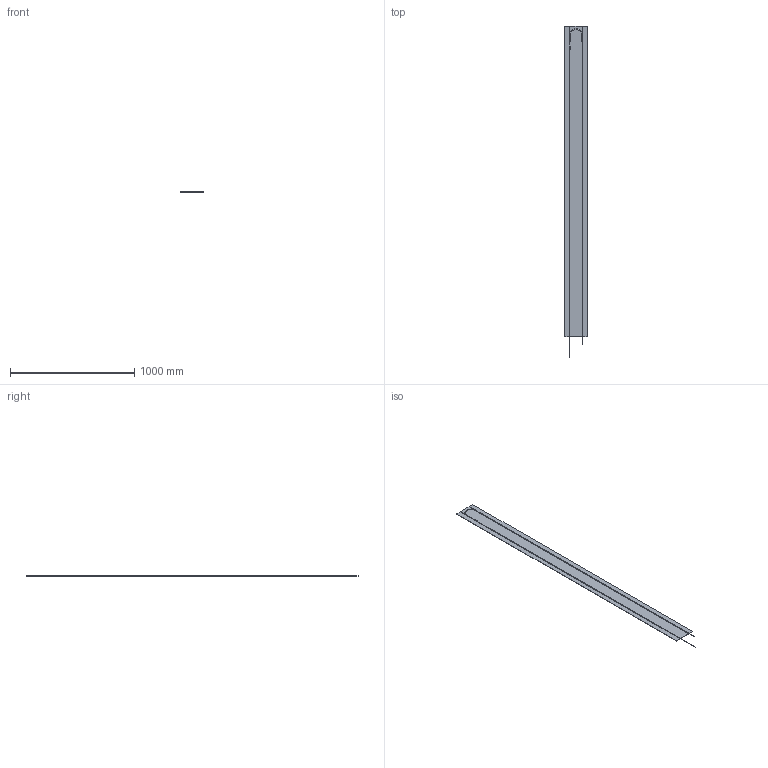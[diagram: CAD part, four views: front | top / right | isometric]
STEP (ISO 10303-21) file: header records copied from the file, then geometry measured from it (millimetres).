
FILE_DESCRIPTION(/* description */ (''),/* implementation_level */ '2;1');
FILE_NAME(/* name */ 'Plate 2500_1tubo.stp',/* time_stamp */ '2018-12-13T11:41:55+01:00',/* author */ (''),/* organization */ (''),/* preprocessor_version */ 'ST-DEVELOPER v16.7',/* originating_system */ 'SIEMENS PLM Software NX 12.0',/* authorisation */ '');
FILE_SCHEMA (('AUTOMOTIVE_DESIGN { 1 0 10303 214 3 1 1 1 }'));
Length unit declared in the file: millimetre
Products named in the file (1): Plate V6_1350_1tubo
Bounding box: 184 x 2670 x 4.74 mm (x, y, z)
Volume: 1359698.6 mm3; surface area: 1043969.4 mm2
Topology: 4 solids, 4 shells, 79 faces, 196 edges, 124 vertices
Faces by surface type: plane 38, cylinder 31, torus 4, bspline 4, cone 2
Full cylindrical faces by diameter (mm): 2.7 x3, 3 x3, 3.1 x1, 4.5 x1
Entity records: 2498 total; most frequent: CARTESIAN_POINT 594, DIRECTION 384, ORIENTED_EDGE 372, EDGE_CURVE 186, AXIS2_PLACEMENT_3D 138, VERTEX_POINT 124, LINE 108, VECTOR 108
